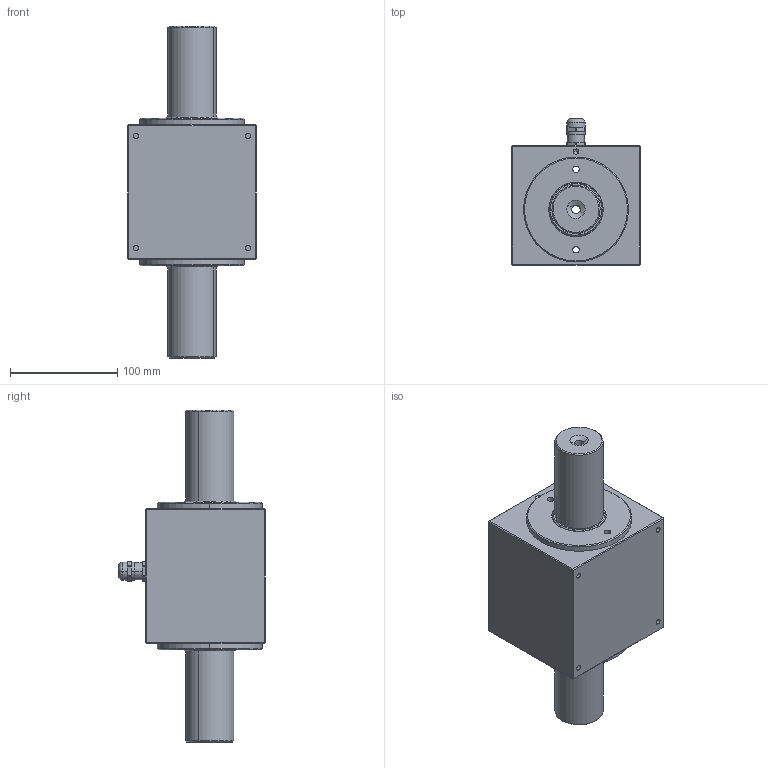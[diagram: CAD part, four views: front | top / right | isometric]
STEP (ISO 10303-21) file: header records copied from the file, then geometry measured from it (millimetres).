
FILE_DESCRIPTION (( 'STEP AP203' ), '1' );
FILE_NAME ('DRWPL-IV.STEP', '2014-05-13T08:27:56', ( 'nsi' ), ( '' ), 'SwSTEP 2.0', 'SolidWorks 2014', '' );
FILE_SCHEMA (( 'CONFIG_CONTROL_DESIGN' ));
Length unit declared in the file: millimetre
Products named in the file (1): DRWPL-IV
Bounding box: 120 x 137 x 310 mm (x, y, z)
Surface area: 127521.9 mm2 (no closed solid volume)
Topology: 0 solids, 16 shells, 188 faces, 571 edges, 389 vertices
Faces by surface type: plane 94, cylinder 62, cone 30, torus 2
Entity records: 6388 total; most frequent: CARTESIAN_POINT 1147, DIRECTION 1140, ORIENTED_EDGE 912, EDGE_CURVE 569, VERTEX_POINT 389, AXIS2_PLACEMENT_3D 382, VECTOR 376, LINE 376
